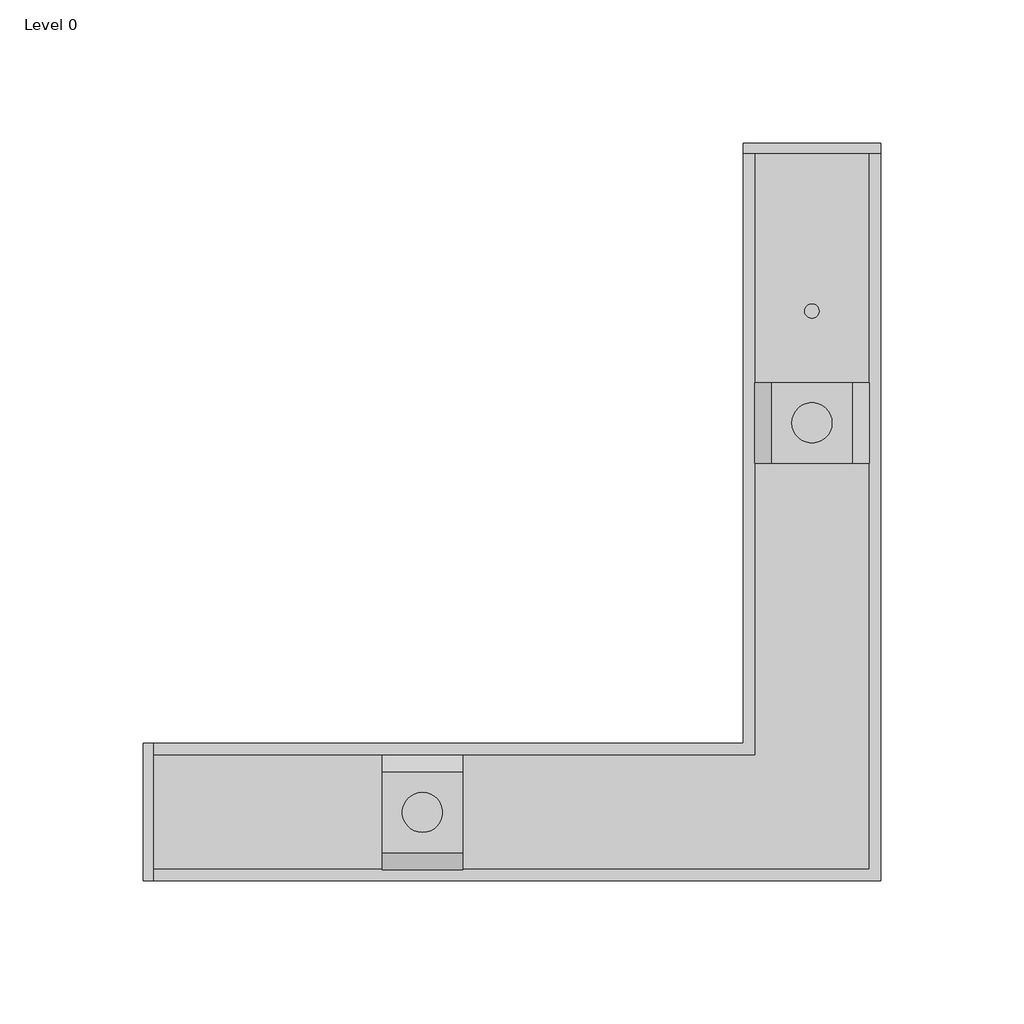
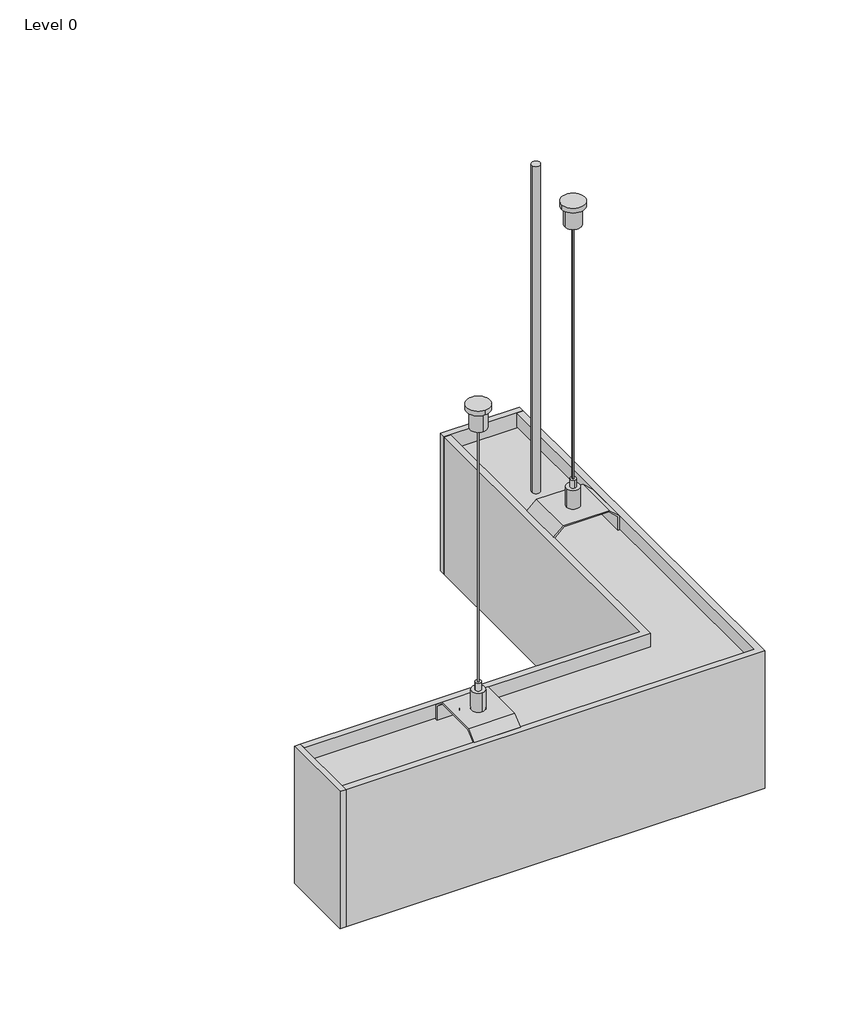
# One storey: 1 light fixture.
"""IFC4 building model written with IfcOpenShell, lengths in millimetres."""

from ifc_helpers import new_model, si_unit, origin, place, context, project, spatial, transform, mapped, element, save
from components import light_fixture_445db888

model = new_model("IFC4")

# Units and contexts
model_context = context("Model", 3, world=origin())
ifc_project = project(units=[si_unit("LENGTHUNIT", "METRE", prefix="MILLI")], contexts=[model_context])

# Site, building, storey
site = spatial("IfcSite", under=ifc_project)
building = spatial("IfcBuilding", under=site)
storey = spatial("IfcBuildingStorey", under=building, Name="Level 0", Elevation=0.0)

# Light fixture
placement = place(None, origin())
light_fixture_shape = light_fixture_445db888(model_context)
element("IfcLightFixture", 1, ObjectType="KLUŚ - SERPENT - ZW L90 : Silver Anodized - 3000 K - 1190 lm - up, down", at=placement, inside=storey, context=model_context, shape_type="MappedRepresentation", body=[
    mapped(light_fixture_shape, transform((0.0, 0.0, 288.0), x_axis=(1.0, 0.0, 0.0), y_axis=(0.0, -1.0, 0.0), z_axis=(0.0, 0.0, -1.0))),
])

save(model, "model.ifc")
